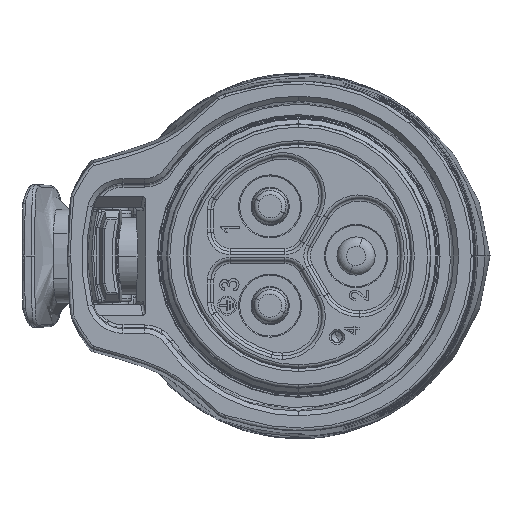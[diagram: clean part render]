
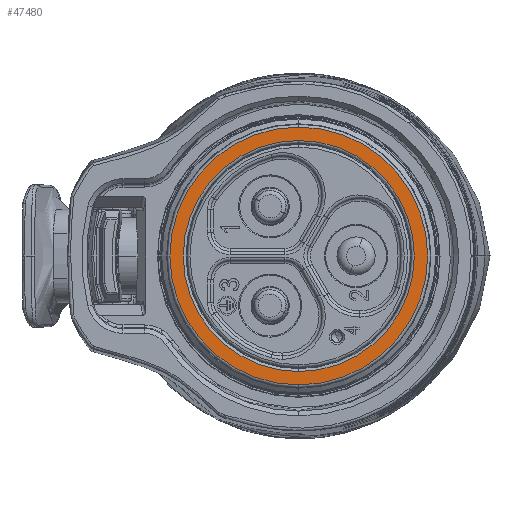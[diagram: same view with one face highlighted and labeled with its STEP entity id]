
A CAD part, left-side view. The second image highlights one B-rep face of the part: STEP entity #47480.
In plain terms, the highlighted planar face has unit normal (-1, 0, 0).
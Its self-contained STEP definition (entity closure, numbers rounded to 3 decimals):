
#962 = VERTEX_POINT ( 'NONE', #48297 ) ;
#2104 = CIRCLE ( 'NONE', #50773, 12.101 ) ;
#3657 = EDGE_CURVE ( 'NONE', #106206, #6628, #105787, .T. ) ;
#6628 = VERTEX_POINT ( 'NONE', #75554 ) ;
#12827 = AXIS2_PLACEMENT_3D ( 'NONE', #104992, #93743, #114277 ) ;
#14021 = DIRECTION ( 'NONE',  ( 1., 0., 0. ) ) ;
#16221 = CIRCLE ( 'NONE', #20403, 13.502 ) ;
#20403 = AXIS2_PLACEMENT_3D ( 'NONE', #101262, #82039, #40979 ) ;
#25361 = DIRECTION ( 'NONE',  ( 1., 0., 0. ) ) ;
#26403 = ORIENTED_EDGE ( 'NONE', *, *, #104829, .T. ) ;
#27831 = AXIS2_PLACEMENT_3D ( 'NONE', #117367, #25361, #65083 ) ;
#33507 = FACE_BOUND ( 'NONE', #76903, .T. ) ;
#33879 = CARTESIAN_POINT ( 'NONE',  ( 0., 0., 0. ) ) ;
#40979 = DIRECTION ( 'NONE',  ( 0., 0., -1. ) ) ;
#46982 = ORIENTED_EDGE ( 'NONE', *, *, #70698, .T. ) ;
#47480 = ADVANCED_FACE ( 'NONE', ( #33507, #94398 ), #95050, .F. ) ;
#48297 = CARTESIAN_POINT ( 'NONE',  ( 0., 0., -12.101 ) ) ;
#49411 = VERTEX_POINT ( 'NONE', #120905 ) ;
#50773 = AXIS2_PLACEMENT_3D ( 'NONE', #33879, #14021, #123948 ) ;
#65083 = DIRECTION ( 'NONE',  ( 0., 0., -1. ) ) ;
#70698 = EDGE_CURVE ( 'NONE', #6628, #106206, #16221, .T. ) ;
#71477 = CARTESIAN_POINT ( 'NONE',  ( 0., 0., 13.502 ) ) ;
#75554 = CARTESIAN_POINT ( 'NONE',  ( 0., 0., -13.502 ) ) ;
#76604 = EDGE_LOOP ( 'NONE', ( #46982, #115650 ) ) ;
#76903 = EDGE_LOOP ( 'NONE', ( #26403, #109094 ) ) ;
#82039 = DIRECTION ( 'NONE',  ( -1., 0., 0. ) ) ;
#85245 = DIRECTION ( 'NONE',  ( -1., 0., 0. ) ) ;
#87882 = DIRECTION ( 'NONE',  ( 0., 0., -1. ) ) ;
#93743 = DIRECTION ( 'NONE',  ( 1., 0., 0. ) ) ;
#94398 = FACE_OUTER_BOUND ( 'NONE', #76604, .T. ) ;
#95050 = PLANE ( 'NONE',  #12827 ) ;
#97152 = CARTESIAN_POINT ( 'NONE',  ( 0., 0., 0. ) ) ;
#101262 = CARTESIAN_POINT ( 'NONE',  ( 0., 0., 0. ) ) ;
#104829 = EDGE_CURVE ( 'NONE', #962, #49411, #2104, .T. ) ;
#104992 = CARTESIAN_POINT ( 'NONE',  ( 0., 11.8, 0. ) ) ;
#105787 = CIRCLE ( 'NONE', #129106, 13.502 ) ;
#106206 = VERTEX_POINT ( 'NONE', #71477 ) ;
#109094 = ORIENTED_EDGE ( 'NONE', *, *, #112750, .T. ) ;
#112750 = EDGE_CURVE ( 'NONE', #49411, #962, #116544, .T. ) ;
#114277 = DIRECTION ( 'NONE',  ( 0., 0., -1. ) ) ;
#115650 = ORIENTED_EDGE ( 'NONE', *, *, #3657, .T. ) ;
#116544 = CIRCLE ( 'NONE', #27831, 12.101 ) ;
#117367 = CARTESIAN_POINT ( 'NONE',  ( 0., 0., 0. ) ) ;
#120905 = CARTESIAN_POINT ( 'NONE',  ( 0., 0., 12.101 ) ) ;
#123948 = DIRECTION ( 'NONE',  ( 0., 0., -1. ) ) ;
#129106 = AXIS2_PLACEMENT_3D ( 'NONE', #97152, #85245, #87882 ) ;
